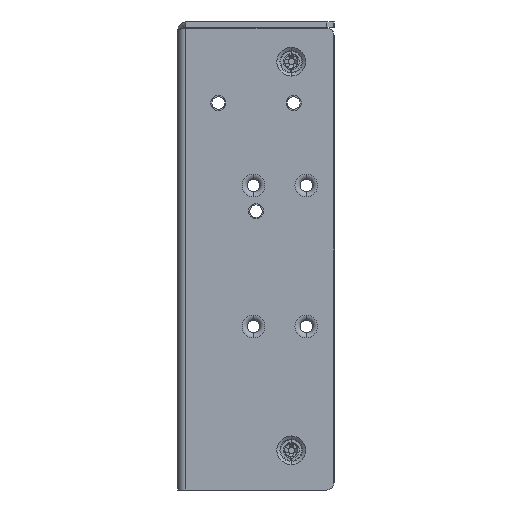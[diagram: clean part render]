
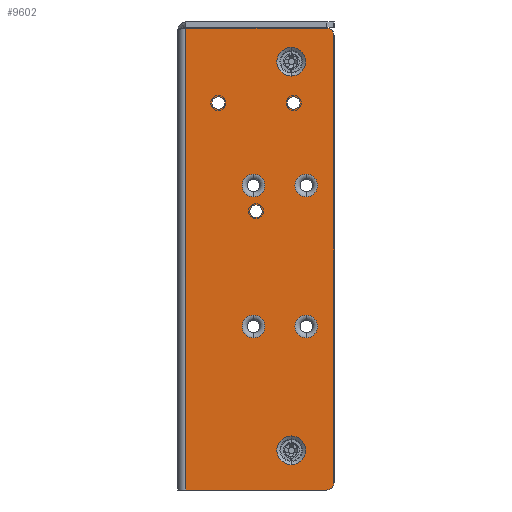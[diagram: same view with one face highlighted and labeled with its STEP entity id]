
A CAD part, left-side view. The second image highlights one B-rep face of the part: STEP entity #9602.
In plain terms, the highlighted planar face has unit normal (-1, 0, 0).
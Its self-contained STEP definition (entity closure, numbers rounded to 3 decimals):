
#166=CARTESIAN_POINT('',(-147.5,-1.5,45.3));
#200=DIRECTION('',(0.,0.,-1.));
#201=VECTOR('',#200,91.8);
#202=CARTESIAN_POINT('',(-147.5,-1.5,45.3));
#203=LINE('',#202,#201);
#222=DIRECTION('',(0.,-1.,0.));
#223=VECTOR('',#222,28.);
#224=CARTESIAN_POINT('',(-147.5,-1.5,-46.5));
#225=LINE('',#224,#223);
#229=CARTESIAN_POINT('',(-147.5,-29.5,43.8));
#230=DIRECTION('',(-1.,0.,0.));
#231=DIRECTION('',(0.,-1.,0.));
#232=AXIS2_PLACEMENT_3D('',#229,#230,#231);
#237=DIRECTION('',(0.,0.,1.));
#238=VECTOR('',#237,88.8);
#239=CARTESIAN_POINT('',(-147.5,-31.,-45.));
#240=LINE('',#239,#238);
#244=CARTESIAN_POINT('',(-147.5,-29.5,-45.));
#245=DIRECTION('',(-1.,0.,0.));
#246=DIRECTION('',(0.,0.,-1.));
#247=AXIS2_PLACEMENT_3D('',#244,#245,#246);
#252=CARTESIAN_POINT('',(-147.5,-8.,30.4));
#253=DIRECTION('',(1.,0.,0.));
#254=DIRECTION('',(0.,0.,1.));
#255=AXIS2_PLACEMENT_3D('',#252,#253,#254);
#260=CARTESIAN_POINT('',(-147.5,-8.,30.4));
#261=DIRECTION('',(1.,0.,0.));
#262=DIRECTION('',(0.,0.,-1.));
#263=AXIS2_PLACEMENT_3D('',#260,#261,#262);
#268=CARTESIAN_POINT('',(-147.5,-15.5,8.9));
#269=DIRECTION('',(1.,0.,0.));
#270=DIRECTION('',(0.,0.,1.));
#271=AXIS2_PLACEMENT_3D('',#268,#269,#270);
#276=CARTESIAN_POINT('',(-147.5,-15.5,8.9));
#277=DIRECTION('',(1.,0.,0.));
#278=DIRECTION('',(0.,0.,-1.));
#279=AXIS2_PLACEMENT_3D('',#276,#277,#278);
#284=CARTESIAN_POINT('',(-147.5,-23.,30.4));
#285=DIRECTION('',(1.,0.,0.));
#286=DIRECTION('',(0.,0.,1.));
#287=AXIS2_PLACEMENT_3D('',#284,#285,#286);
#292=CARTESIAN_POINT('',(-147.5,-23.,30.4));
#293=DIRECTION('',(1.,0.,0.));
#294=DIRECTION('',(0.,0.,-1.));
#295=AXIS2_PLACEMENT_3D('',#292,#293,#294);
#300=CARTESIAN_POINT('',(-147.5,-22.5,-38.6));
#301=DIRECTION('',(1.,0.,0.));
#302=DIRECTION('',(0.,0.,-1.));
#303=AXIS2_PLACEMENT_3D('',#300,#301,#302);
#308=CARTESIAN_POINT('',(-147.5,-22.5,-38.6));
#309=DIRECTION('',(1.,0.,0.));
#310=DIRECTION('',(0.,0.,1.));
#311=AXIS2_PLACEMENT_3D('',#308,#309,#310);
#316=CARTESIAN_POINT('',(-147.5,-22.5,38.6));
#317=DIRECTION('',(1.,0.,0.));
#318=DIRECTION('',(0.,0.,-1.));
#319=AXIS2_PLACEMENT_3D('',#316,#317,#318);
#324=CARTESIAN_POINT('',(-147.5,-22.5,38.6));
#325=DIRECTION('',(1.,0.,0.));
#326=DIRECTION('',(0.,0.,1.));
#327=AXIS2_PLACEMENT_3D('',#324,#325,#326);
#470=DIRECTION('',(0.,-1.,0.));
#471=VECTOR('',#470,28.);
#472=CARTESIAN_POINT('',(-147.5,-1.5,45.3));
#473=LINE('',#472,#471);
#660=CARTESIAN_POINT('',(-147.5,-15.,-14.));
#661=DIRECTION('',(-1.,0.,0.));
#662=DIRECTION('',(0.,0.,-1.));
#663=AXIS2_PLACEMENT_3D('',#660,#661,#662);
#684=CARTESIAN_POINT('',(-147.5,-15.,-14.));
#685=DIRECTION('',(-1.,0.,0.));
#686=DIRECTION('',(0.,0.,1.));
#687=AXIS2_PLACEMENT_3D('',#684,#685,#686);
#798=CARTESIAN_POINT('',(-147.5,-25.5,-14.));
#799=DIRECTION('',(-1.,0.,0.));
#800=DIRECTION('',(0.,0.,-1.));
#801=AXIS2_PLACEMENT_3D('',#798,#799,#800);
#822=CARTESIAN_POINT('',(-147.5,-25.5,-14.));
#823=DIRECTION('',(-1.,0.,0.));
#824=DIRECTION('',(0.,0.,1.));
#825=AXIS2_PLACEMENT_3D('',#822,#823,#824);
#936=CARTESIAN_POINT('',(-147.5,-25.5,14.));
#937=DIRECTION('',(-1.,0.,0.));
#938=DIRECTION('',(0.,0.,-1.));
#939=AXIS2_PLACEMENT_3D('',#936,#937,#938);
#960=CARTESIAN_POINT('',(-147.5,-25.5,14.));
#961=DIRECTION('',(-1.,0.,0.));
#962=DIRECTION('',(0.,0.,1.));
#963=AXIS2_PLACEMENT_3D('',#960,#961,#962);
#1074=CARTESIAN_POINT('',(-147.5,-15.,14.));
#1075=DIRECTION('',(-1.,0.,0.));
#1076=DIRECTION('',(0.,0.,-1.));
#1077=AXIS2_PLACEMENT_3D('',#1074,#1075,#1076);
#1098=CARTESIAN_POINT('',(-147.5,-15.,14.));
#1099=DIRECTION('',(-1.,0.,0.));
#1100=DIRECTION('',(0.,0.,1.));
#1101=AXIS2_PLACEMENT_3D('',#1098,#1099,#1100);
#7832=CARTESIAN_POINT('',(-147.5,-1.5,-46.5));
#7834=VERTEX_POINT('',#7832);
#7848=CARTESIAN_POINT('',(-147.5,-8.,31.65));
#7849=CARTESIAN_POINT('',(-147.5,-8.,29.15));
#7850=VERTEX_POINT('',#7848);
#7851=VERTEX_POINT('',#7849);
#7852=CARTESIAN_POINT('',(-147.5,-15.5,10.15));
#7853=CARTESIAN_POINT('',(-147.5,-15.5,7.65));
#7854=VERTEX_POINT('',#7852);
#7855=VERTEX_POINT('',#7853);
#7856=CARTESIAN_POINT('',(-147.5,-23.,31.65));
#7857=CARTESIAN_POINT('',(-147.5,-23.,29.15));
#7858=VERTEX_POINT('',#7856);
#7859=VERTEX_POINT('',#7857);
#7912=CARTESIAN_POINT('',(-147.5,-22.5,-41.45));
#7913=CARTESIAN_POINT('',(-147.5,-22.5,-35.75));
#7914=VERTEX_POINT('',#7912);
#7915=VERTEX_POINT('',#7913);
#7920=CARTESIAN_POINT('',(-147.5,-22.5,35.75));
#7921=CARTESIAN_POINT('',(-147.5,-22.5,41.45));
#7922=VERTEX_POINT('',#7920);
#7923=VERTEX_POINT('',#7921);
#7928=CARTESIAN_POINT('',(-147.5,-29.5,-46.5));
#7929=VERTEX_POINT('',#7928);
#7968=VERTEX_POINT('',#166);
#7978=CARTESIAN_POINT('',(-147.5,-31.,-45.));
#7979=VERTEX_POINT('',#7978);
#7994=CARTESIAN_POINT('',(-147.5,-31.,43.8));
#7995=VERTEX_POINT('',#7994);
#7996=CARTESIAN_POINT('',(-147.5,-29.5,45.3));
#7997=VERTEX_POINT('',#7996);
#9014=CARTESIAN_POINT('',(-147.5,-15.,-16.25));
#9016=VERTEX_POINT('',#9014);
#9020=CARTESIAN_POINT('',(-147.5,-15.,-11.75));
#9022=VERTEX_POINT('',#9020);
#9034=CARTESIAN_POINT('',(-147.5,-25.5,-16.25));
#9036=VERTEX_POINT('',#9034);
#9040=CARTESIAN_POINT('',(-147.5,-25.5,-11.75));
#9042=VERTEX_POINT('',#9040);
#9054=CARTESIAN_POINT('',(-147.5,-25.5,11.75));
#9056=VERTEX_POINT('',#9054);
#9060=CARTESIAN_POINT('',(-147.5,-25.5,16.25));
#9062=VERTEX_POINT('',#9060);
#9074=CARTESIAN_POINT('',(-147.5,-15.,11.75));
#9076=VERTEX_POINT('',#9074);
#9080=CARTESIAN_POINT('',(-147.5,-15.,16.25));
#9082=VERTEX_POINT('',#9080);
#9530=CARTESIAN_POINT('',(-147.5,0.,-46.5));
#9531=DIRECTION('',(-1.,0.,0.));
#9532=DIRECTION('',(0.,0.,-1.));
#9533=AXIS2_PLACEMENT_3D('',#9530,#9531,#9532);
#9534=PLANE('',#9533);
#9536=ORIENTED_EDGE('',*,*,#9535,.F.);
#9537=ORIENTED_EDGE('',*,*,#9522,.F.);
#9539=ORIENTED_EDGE('',*,*,#9538,.T.);
#9541=ORIENTED_EDGE('',*,*,#9540,.F.);
#9543=ORIENTED_EDGE('',*,*,#9542,.F.);
#9545=ORIENTED_EDGE('',*,*,#9544,.F.);
#9546=EDGE_LOOP('',(#9536,#9537,#9539,#9541,#9543,#9545));
#9547=FACE_OUTER_BOUND('',#9546,.F.);
#9549=ORIENTED_EDGE('',*,*,#9548,.F.);
#9551=ORIENTED_EDGE('',*,*,#9550,.F.);
#9552=EDGE_LOOP('',(#9549,#9551));
#9553=FACE_BOUND('',#9552,.F.);
#9555=ORIENTED_EDGE('',*,*,#9554,.F.);
#9557=ORIENTED_EDGE('',*,*,#9556,.F.);
#9558=EDGE_LOOP('',(#9555,#9557));
#9559=FACE_BOUND('',#9558,.F.);
#9561=ORIENTED_EDGE('',*,*,#9560,.F.);
#9563=ORIENTED_EDGE('',*,*,#9562,.F.);
#9564=EDGE_LOOP('',(#9561,#9563));
#9565=FACE_BOUND('',#9564,.F.);
#9567=ORIENTED_EDGE('',*,*,#9566,.F.);
#9569=ORIENTED_EDGE('',*,*,#9568,.F.);
#9570=EDGE_LOOP('',(#9567,#9569));
#9571=FACE_BOUND('',#9570,.F.);
#9573=ORIENTED_EDGE('',*,*,#9572,.F.);
#9575=ORIENTED_EDGE('',*,*,#9574,.F.);
#9576=EDGE_LOOP('',(#9573,#9575));
#9577=FACE_BOUND('',#9576,.F.);
#9579=ORIENTED_EDGE('',*,*,#9578,.T.);
#9581=ORIENTED_EDGE('',*,*,#9580,.T.);
#9582=EDGE_LOOP('',(#9579,#9581));
#9583=FACE_BOUND('',#9582,.F.);
#9585=ORIENTED_EDGE('',*,*,#9584,.T.);
#9587=ORIENTED_EDGE('',*,*,#9586,.T.);
#9588=EDGE_LOOP('',(#9585,#9587));
#9589=FACE_BOUND('',#9588,.F.);
#9591=ORIENTED_EDGE('',*,*,#9590,.T.);
#9593=ORIENTED_EDGE('',*,*,#9592,.T.);
#9594=EDGE_LOOP('',(#9591,#9593));
#9595=FACE_BOUND('',#9594,.F.);
#9597=ORIENTED_EDGE('',*,*,#9596,.T.);
#9599=ORIENTED_EDGE('',*,*,#9598,.T.);
#9600=EDGE_LOOP('',(#9597,#9599));
#9601=FACE_BOUND('',#9600,.F.);
#9602=ADVANCED_FACE('',(#9547,#9553,#9559,#9565,#9571,#9577,#9583,#9589,#9595,
#9601),#9534,.T.);
#233=CIRCLE('',#232,1.5);
#248=CIRCLE('',#247,1.5);
#256=CIRCLE('',#255,1.25);
#264=CIRCLE('',#263,1.25);
#272=CIRCLE('',#271,1.25);
#280=CIRCLE('',#279,1.25);
#288=CIRCLE('',#287,1.25);
#296=CIRCLE('',#295,1.25);
#304=CIRCLE('',#303,2.85);
#312=CIRCLE('',#311,2.85);
#320=CIRCLE('',#319,2.85);
#328=CIRCLE('',#327,2.85);
#664=CIRCLE('',#663,2.25);
#688=CIRCLE('',#687,2.25);
#802=CIRCLE('',#801,2.25);
#826=CIRCLE('',#825,2.25);
#940=CIRCLE('',#939,2.25);
#964=CIRCLE('',#963,2.25);
#1078=CIRCLE('',#1077,2.25);
#1102=CIRCLE('',#1101,2.25);
#9522=EDGE_CURVE('',#7968,#7834,#203,.T.);
#9535=EDGE_CURVE('',#7834,#7929,#225,.T.);
#9538=EDGE_CURVE('',#7968,#7997,#473,.T.);
#9540=EDGE_CURVE('',#7995,#7997,#233,.T.);
#9542=EDGE_CURVE('',#7979,#7995,#240,.T.);
#9544=EDGE_CURVE('',#7929,#7979,#248,.T.);
#9548=EDGE_CURVE('',#7850,#7851,#256,.T.);
#9550=EDGE_CURVE('',#7851,#7850,#264,.T.);
#9554=EDGE_CURVE('',#7854,#7855,#272,.T.);
#9556=EDGE_CURVE('',#7855,#7854,#280,.T.);
#9560=EDGE_CURVE('',#7858,#7859,#288,.T.);
#9562=EDGE_CURVE('',#7859,#7858,#296,.T.);
#9566=EDGE_CURVE('',#7914,#7915,#304,.T.);
#9568=EDGE_CURVE('',#7915,#7914,#312,.T.);
#9572=EDGE_CURVE('',#7922,#7923,#320,.T.);
#9574=EDGE_CURVE('',#7923,#7922,#328,.T.);
#9578=EDGE_CURVE('',#9016,#9022,#664,.T.);
#9580=EDGE_CURVE('',#9022,#9016,#688,.T.);
#9584=EDGE_CURVE('',#9036,#9042,#802,.T.);
#9586=EDGE_CURVE('',#9042,#9036,#826,.T.);
#9590=EDGE_CURVE('',#9056,#9062,#940,.T.);
#9592=EDGE_CURVE('',#9062,#9056,#964,.T.);
#9596=EDGE_CURVE('',#9076,#9082,#1078,.T.);
#9598=EDGE_CURVE('',#9082,#9076,#1102,.T.);
